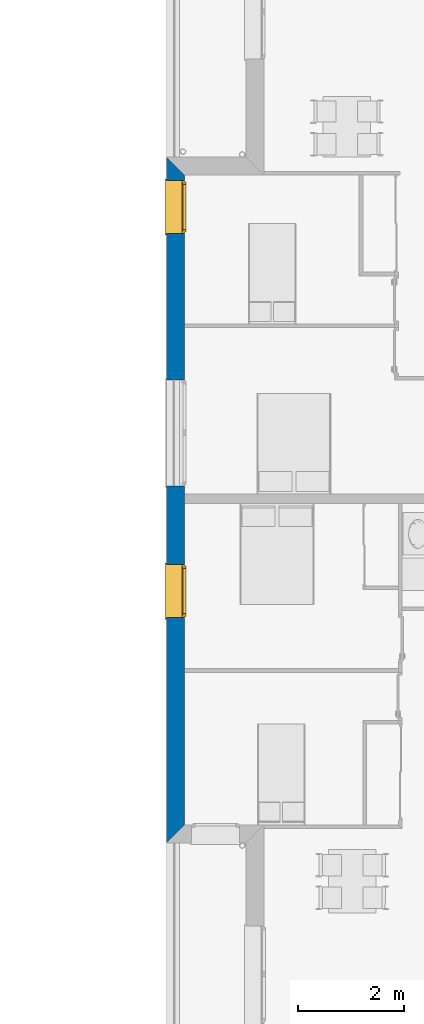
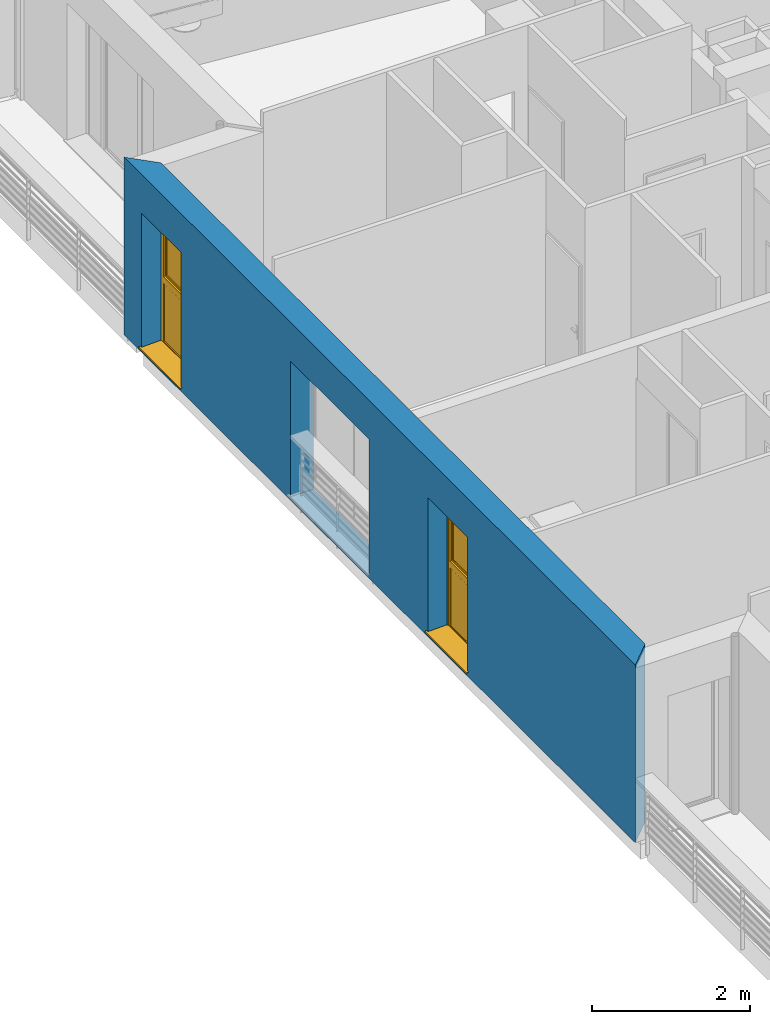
# One storey, part 47 of 171: 2 windows, 1 wall, 3 openings.
"""IFC2X3 building model written with IfcOpenShell, lengths in millimetres."""

from ifc_helpers import new_model, entity, si_unit, converted_unit, derived_unit, money_unit, direction, frame, origin_with_axes, place, context, subcontext, project, spatial, polyline, outline, extrude, open_shell, faceted_brep, surface_model, source, transform, mapped, material, layer, layer_set, layer_usage, type_object, element, fill, save


model = new_model("IFC2X3")

# Units and contexts
model_context = context("Model", 3, precision=0.01, world=origin_with_axes(), true_north=direction((0.0, 1.0)))
body_context = subcontext(model_context, "Body", "Model", "MODEL_VIEW")
ifc_project = project(units=[si_unit("LENGTHUNIT", "METRE", prefix="MILLI"), si_unit("AREAUNIT", "SQUARE_METRE"), si_unit("VOLUMEUNIT", "CUBIC_METRE"), converted_unit("PLANEANGLEUNIT", "DEGREE", entity("IfcPlaneAngleMeasure", 0.0174532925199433), si_unit("PLANEANGLEUNIT", "RADIAN"), dimensions=[0, 0, 0, 0, 0, 0, 0]), money_unit("USD"), converted_unit("TIMEUNIT", "Year", entity("IfcTimeMeasure", 31557600.0), si_unit("TIMEUNIT", "SECOND"), dimensions=[0, 0, 1, 0, 0, 0, 0]), si_unit("MASSUNIT", "GRAM", prefix="KILO"), si_unit("THERMODYNAMICTEMPERATUREUNIT", "DEGREE_CELSIUS"), si_unit("LUMINOUSINTENSITYUNIT", "LUMEN"), si_unit("ENERGYUNIT", "JOULE", prefix="MEGA"), derived_unit("THERMALCONDUCTANCEUNIT", [(si_unit("POWERUNIT", "WATT"), 1), (si_unit("LENGTHUNIT", "METRE"), -1), (si_unit("THERMODYNAMICTEMPERATUREUNIT", "KELVIN"), -1)]), derived_unit("SPECIFICHEATCAPACITYUNIT", [(si_unit("ENERGYUNIT", "JOULE"), 1), (si_unit("MASSUNIT", "GRAM", prefix="KILO"), -1), (si_unit("THERMODYNAMICTEMPERATUREUNIT", "KELVIN"), -1)]), derived_unit("MASSDENSITYUNIT", [(si_unit("MASSUNIT", "GRAM", prefix="KILO"), 1), (si_unit("VOLUMEUNIT", "CUBIC_METRE"), -1)])], contexts=[model_context])

# Site, building, storey
site_placement = place(None, origin_with_axes())
site = spatial("IfcSite", under=ifc_project, at=site_placement, Name="Site", CompositionType="ELEMENT")
building_placement = place(site_placement, origin_with_axes())
building = spatial("IfcBuilding", under=site, at=building_placement, Name="Bâtiment", CompositionType="ELEMENT")
storey_placement = place(building_placement, frame((0.0, 0.0, 3000.0), z_axis=(0.0, 0.0, 1.0), x_axis=(1.0, 0.0, 0.0)))
storey = spatial("IfcBuildingStorey", under=building, at=storey_placement, Name="rdc", CompositionType="ELEMENT", Elevation=3000.0)

# Wall, openings, windows
ifc_material_1 = material(Name="Parpaing 312445824")
ifc_layer_1 = layer(ifc_material_1, 180.0, ventilated="UNKNOWN")
ifc_material_2 = material(Name="Isolant styromousse 301821074")
ifc_layer_2 = layer(ifc_material_2, 160.0, ventilated="UNKNOWN")
ifc_layer_set = layer_set([ifc_layer_1, ifc_layer_2], Name="isol int 18+16 0018356637")
ifc_layer_usage = layer_usage(ifc_layer_set, "AXIS2", "POSITIVE", 0.0)
wall_type = type_object("IfcWallType", Name="isol int 18+16 0018356637 340", PredefinedType="NOTDEFINED")
wall_placement = place(storey_placement, frame((2216634.236006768, -626071.2141322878, 0.0), z_axis=(0.0, 0.0, 1.0), x_axis=(5.891582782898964e-06, -0.9999999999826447, 0.0)))
wall = element("IfcWallStandardCase", 1, at=wall_placement, inside=storey, type_object=wall_type, material=ifc_layer_usage, Name="Mur-143", context=body_context, shape_type="SweptSolid", body=[
    extrude(outline(polyline([(0.0, 0.0), (12945.5935671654, 0.0), (12605.59557029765, 339.9999999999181), (340.0020031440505, 339.9999999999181), (0.0, 0.0)])), origin_with_axes(), (0.0, 0.0, 1.0), 2750.0),
])
opening_1_placement = place(wall_placement, frame((942.2718853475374, 0.0, 49.99999999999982), z_axis=(0.0, 0.0, 1.0), x_axis=(1.0, 0.0, 0.0)))
opening_1 = element("IfcOpeningElement", 2, at=opening_1_placement, cuts=wall, Name="Fen-133", context=body_context, shape_type="Brep", body=[
    faceted_brep([(-500.0, 289.9999999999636, 2100.0), (-499.9999999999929, 341.0762700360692, 2100.0), (-500.0, 341.0762700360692, 0.0), (-500.0000000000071, 289.9999999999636, 0.0), (-499.9999999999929, 280.0000000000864, 2100.0), (-499.9999999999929, 280.0000000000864, 2350.0), (-499.9999999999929, 529.9999999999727, 2350.0), (-499.9999999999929, 529.9999999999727, 2100.0), (500.0, 341.0762700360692, 2100.0), (500.0, 341.0762700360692, 0.0), (500.0, 289.9999999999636, 0.0), (499.9999999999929, -1.076270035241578, 0.0), (-500.0, -1.076270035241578, 0.0), (-500.0, -1.076270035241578, 2100.0), (500.0, 280.0000000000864, 2100.0), (500.0, 280.0000000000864, 2350.0), (500.0, 529.9999999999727, 2350.0), (500.0, 529.9999999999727, 2100.0), (500.0, 289.9999999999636, 2100.0), (499.9999999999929, -1.076270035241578, 2100.0)], [[[0, 1, 2, 3]], [[1, 0, 4, 5, 6, 7]], [[1, 8, 9, 2]], [[10, 11, 12, 3, 2, 9]], [[4, 0, 3, 12, 13]], [[4, 14, 15, 5]], [[6, 5, 15, 16]], [[7, 6, 16, 17]], [[8, 1, 7, 17]], [[8, 18, 10, 9]], [[18, 14, 19, 11, 10]], [[13, 12, 11, 19]], [[14, 4, 13, 19]], [[18, 8, 17, 16, 15, 14]]]),
])
opening_2_placement = place(wall_placement, frame((8194.486959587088, 0.0, 49.99999999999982), z_axis=(0.0, 0.0, 1.0), x_axis=(1.0, 0.0, 0.0)))
opening_2 = element("IfcOpeningElement", 3, at=opening_2_placement, cuts=wall, Name="Fen-133", context=body_context, shape_type="Brep", body=[
    faceted_brep([(-500.0000000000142, 290.0000000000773, 2100.0), (-500.0, 341.0762700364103, 2100.0), (-500.0, 341.0762700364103, 0.0), (-500.0, 290.0000000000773, 0.0), (-500.0000000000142, 280.0000000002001, 2100.0), (-500.0000000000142, 280.0000000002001, 2350.0), (-500.0, 530.0000000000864, 2350.0), (-500.0, 530.0000000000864, 2100.0), (500.0, 341.0762700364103, 2100.0), (499.9999999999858, 341.0762700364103, 0.0), (500.0, 289.9999999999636, 0.0), (500.0, -1.076270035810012, 0.0), (-500.0, -1.076270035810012, 0.0), (-500.0, -1.076270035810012, 2100.0), (500.0, 280.0000000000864, 2100.0), (500.0, 280.0000000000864, 2350.0), (500.0, 530.0000000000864, 2350.0), (500.0, 530.0000000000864, 2100.0), (500.0, 289.9999999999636, 2100.0), (500.0, -1.076270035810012, 2100.0)], [[[0, 1, 2, 3]], [[1, 0, 4, 5, 6, 7]], [[1, 8, 9, 2]], [[10, 11, 12, 3, 2, 9]], [[4, 0, 3, 12, 13]], [[4, 14, 15, 5]], [[6, 5, 15, 16]], [[7, 6, 16, 17]], [[8, 1, 7, 17]], [[8, 18, 10, 9]], [[18, 14, 19, 11, 10]], [[13, 12, 11, 19]], [[14, 4, 13, 19]], [[18, 8, 17, 16, 15, 14]]]),
])
opening_3_placement = place(wall_placement, frame((5205.708992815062, 0.0, 49.99999999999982), z_axis=(0.0, 0.0, 1.0), x_axis=(1.0, 0.0, 0.0)))
element("IfcOpeningElement", 4, at=opening_3_placement, cuts=wall, Name="Fen-207", context=body_context, shape_type="Brep", body=[
    faceted_brep([(-999.999999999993, 341.0762700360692, 2100.0), (999.999999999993, 341.0762700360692, 2100.0), (999.999999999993, 341.0762700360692, 0.0), (-999.999999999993, 341.0762700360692, 0.0), (-1000.0, 530.0000000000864, 2100.0), (999.999999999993, 530.0000000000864, 2100.0), (1000.000000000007, 289.9999999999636, 2100.0), (1000.000000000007, 289.9999999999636, 0.0), (999.999999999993, -1.076270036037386, 0.0), (-999.999999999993, -1.076270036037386, 0.0), (-999.999999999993, 290.0000000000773, 0.0), (-999.999999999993, 290.0000000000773, 2100.0), (-999.9999999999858, 280.0000000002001, 2100.0), (-999.9999999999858, 280.0000000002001, 2350.0), (-1000.0, 530.0000000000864, 2350.0), (999.999999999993, 530.0000000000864, 2350.0), (1000.000000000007, 280.0000000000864, 2350.0), (1000.000000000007, 280.0000000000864, 2100.0), (999.999999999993, -1.076270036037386, 2100.0), (-999.999999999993, -1.076270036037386, 2100.0)], [[[0, 1, 2, 3]], [[1, 0, 4, 5]], [[1, 6, 7, 2]], [[7, 8, 9, 10, 3, 2]], [[11, 0, 3, 10]], [[0, 11, 12, 13, 14, 4]], [[4, 14, 15, 5]], [[6, 1, 5, 15, 16, 17]], [[6, 17, 18, 8, 7]], [[19, 9, 8, 18]], [[12, 11, 10, 9, 19]], [[12, 17, 16, 13]], [[14, 13, 16, 15]], [[17, 12, 19, 18]]]),
])
window_style = type_object("IfcWindowStyle", Name="Fenêtre 27", ConstructionType="NOTDEFINED", OperationType="DOUBLE_PANEL_HORIZONTAL", ParameterTakesPrecedence=False, Sizeable=False)
shared_shape = source(origin_with_axes(), body_context, "Body", "SurfaceModel", [
    surface_model("IfcShellBasedSurfaceModel", [(-500.0, -51.00000000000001, 40.00000000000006), (500.0, -51.00000000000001, 40.0), (500.0, -51.00000000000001, 50.0), (-500.0, -51.00000000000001, 50.00000000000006), (-530.0, -369.9999999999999, 28.96551724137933), (530.0, -369.9999999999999, 28.96551724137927), (530.0, -339.9999999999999, 30.00324289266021), (500.0, -339.9999999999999, 30.00324289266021), (-500.0, -339.9999999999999, 30.00324289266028), (-530.0, -339.9999999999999, 30.00324289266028), (-530.0, -369.9999999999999, 8.96551724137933), (530.0, -369.9999999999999, 8.965517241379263), (-530.0, -359.9999999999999, 18.96551724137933), (530.0, -359.9999999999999, 18.96551724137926)], [open_shell([[[0, 1, 2, 3]], [[4, 5, 6, 7, 1, 0, 8, 9]], [[10, 11, 5, 4]], [[12, 13, 11, 10]]])]),
    faceted_brep([(500.0, -59.99999999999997, 2350.0), (500.0, 190.0, 2350.0), (497.0, 190.0, 2350.0), (497.0, -59.99999999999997, 2350.0), (500.0, -59.99999999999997, 2100.0), (500.0, 190.0, 2100.0), (497.0, 190.0, 2100.0), (497.0, -59.99999999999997, 2100.0)], [[[0, 1, 2, 3]], [[0, 4, 5, 1]], [[1, 5, 6, 2]], [[3, 2, 6, 7]], [[4, 0, 3, 7]], [[5, 4, 7, 6]]]),
    faceted_brep([(-497.0, -59.99999999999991, 2350.0), (-497.0, 190.0000000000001, 2350.0), (-500.0, 190.0000000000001, 2350.0), (-500.0, -59.99999999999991, 2350.0), (-497.0, -59.99999999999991, 2100.0), (-497.0, 190.0000000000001, 2100.0), (-500.0, 190.0000000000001, 2100.0), (-500.0, -59.99999999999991, 2100.0)], [[[0, 1, 2, 3]], [[0, 4, 5, 1]], [[1, 5, 6, 2]], [[3, 2, 6, 7]], [[4, 0, 3, 7]], [[5, 4, 7, 6]]]),
    faceted_brep([(497.0, -60.0, 2100.0), (497.0, -60.0, 2350.0), (-497.0, -59.99999999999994, 2350.0), (-497.0, -59.99999999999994, 2100.0), (497.0, -56.99999999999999, 2100.0), (497.0, -56.99999999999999, 2347.0), (497.0, 187.0, 2347.0), (497.0, 187.0, 2103.0), (497.0, -37.99999999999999, 2103.0), (497.0, -37.99999999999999, 2100.0), (497.0, 190.0, 2100.0), (497.0, 190.0, 2350.0), (-497.0, 190.0000000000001, 2350.0), (-497.0, 190.0000000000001, 2100.0), (-497.0, -37.99999999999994, 2100.0), (-497.0, -37.99999999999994, 2103.0), (-497.0, 187.0000000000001, 2103.0), (-497.0, 187.0000000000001, 2347.0), (-497.0, -56.99999999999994, 2347.0), (-497.0, -56.99999999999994, 2100.0)], [[[0, 1, 2, 3]], [[0, 4, 5, 6, 7, 8, 9, 10, 11, 1]], [[1, 11, 12, 2]], [[3, 2, 12, 13, 14, 15, 16, 17, 18, 19]], [[4, 0, 3, 19]], [[5, 4, 19, 18]], [[6, 5, 18, 17]], [[7, 6, 17, 16]], [[8, 7, 16, 15]], [[9, 8, 15, 14]], [[10, 9, 14, 13]], [[11, 10, 13, 12]]]),
    faceted_brep([(494.0, -40.37442957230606, 2206.419644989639), (494.0, -35.54711042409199, 2188.403844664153), (494.0, -27.66471820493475, 2171.5), (494.0, -16.9667554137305, 2156.22172576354), (494.0, -3.778274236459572, 2143.03324458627), (494.0, 11.50000000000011, 2132.335281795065), (494.0, 28.40384466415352, 2124.452889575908), (494.0, 46.4196449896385, 2119.625570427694), (494.0, 65.00000000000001, 2118.0), (494.0, 83.58035501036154, 2119.625570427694), (494.0, 101.5961553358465, 2124.452889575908), (494.0, 118.4999999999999, 2132.335281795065), (494.0, 133.7782742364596, 2143.03324458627), (494.0, 146.9667554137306, 2156.22172576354), (494.0, 157.6647182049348, 2171.5), (494.0, 165.5471104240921, 2188.403844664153), (494.0, 170.3744295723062, 2206.419644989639), (494.0, 171.9999999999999, 2225.0), (494.0, 170.3744295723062, 2243.580355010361), (494.0, 165.5471104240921, 2261.596155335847), (494.0, 157.6647182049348, 2278.5), (494.0, 146.9667554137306, 2293.77827423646), (494.0, 133.7782742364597, 2306.966755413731), (494.0, 118.5, 2317.664718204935), (494.0, 101.5961553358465, 2325.547110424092), (494.0, 83.58035501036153, 2330.374429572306), (494.0, 64.99999999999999, 2332.0), (494.0, 46.41964498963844, 2330.374429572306), (494.0, 28.40384466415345, 2325.547110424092), (494.0, 11.5, 2317.664718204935), (494.0, -3.778274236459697, 2306.966755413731), (494.0, -16.96675541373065, 2293.77827423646), (494.0, -27.66471820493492, 2278.5), (494.0, -35.54711042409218, 2261.596155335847), (494.0, -40.37442957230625, 2243.580355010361), (494.0, -41.99999999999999, 2225.0), (-494.0, -40.374429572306, 2206.419644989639), (-494.0, -35.54711042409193, 2188.403844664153), (-494.0, -27.6647182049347, 2171.5), (-494.0, -16.96675541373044, 2156.22172576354), (-494.0, -3.778274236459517, 2143.03324458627), (-494.0, 11.50000000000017, 2132.335281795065), (-494.0, 28.40384466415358, 2124.452889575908), (-494.0, 46.41964498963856, 2119.625570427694), (-494.0, 65.00000000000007, 2118.0), (-494.0, 83.5803550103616, 2119.625570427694), (-494.0, 101.5961553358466, 2124.452889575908), (-494.0, 118.5, 2132.335281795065), (-494.0, 133.7782742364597, 2143.03324458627), (-494.0, 146.9667554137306, 2156.22172576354), (-494.0, 157.6647182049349, 2171.5), (-494.0, 165.5471104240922, 2188.403844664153), (-494.0, 170.3744295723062, 2206.419644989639), (-494.0, 172.0, 2225.0), (-494.0, 170.3744295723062, 2243.580355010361), (-494.0, 165.5471104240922, 2261.596155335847), (-494.0, 157.6647182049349, 2278.5), (-494.0, 146.9667554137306, 2293.77827423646), (-494.0, 133.7782742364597, 2306.966755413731), (-494.0, 118.5, 2317.664718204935), (-494.0, 101.5961553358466, 2325.547110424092), (-494.0, 83.58035501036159, 2330.374429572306), (-494.0, 65.00000000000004, 2332.0), (-494.0, 46.41964498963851, 2330.374429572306), (-494.0, 28.40384466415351, 2325.547110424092), (-494.0, 11.50000000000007, 2317.664718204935), (-494.0, -3.778274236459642, 2306.966755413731), (-494.0, -16.96675541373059, 2293.77827423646), (-494.0, -27.66471820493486, 2278.5), (-494.0, -35.54711042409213, 2261.596155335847), (-494.0, -40.37442957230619, 2243.580355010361), (-494.0, -41.99999999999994, 2225.0)], [[[0, 1, 2, 3, 4, 5, 6, 7, 8, 9, 10, 11, 12, 13, 14, 15, 16, 17, 18, 19, 20, 21, 22, 23, 24, 25, 26, 27, 28, 29, 30, 31, 32, 33, 34, 35]], [[1, 0, 36, 37]], [[2, 1, 37, 38]], [[3, 2, 38, 39]], [[4, 3, 39, 40]], [[5, 4, 40, 41]], [[6, 5, 41, 42]], [[7, 6, 42, 43]], [[8, 7, 43, 44]], [[9, 8, 44, 45]], [[10, 9, 45, 46]], [[11, 10, 46, 47]], [[12, 11, 47, 48]], [[13, 12, 48, 49]], [[14, 13, 49, 50]], [[15, 14, 50, 51]], [[16, 15, 51, 52]], [[17, 16, 52, 53]], [[18, 17, 53, 54]], [[19, 18, 54, 55]], [[20, 19, 55, 56]], [[21, 20, 56, 57]], [[22, 21, 57, 58]], [[23, 22, 58, 59]], [[24, 23, 59, 60]], [[25, 24, 60, 61]], [[26, 25, 61, 62]], [[27, 26, 62, 63]], [[28, 27, 63, 64]], [[29, 28, 64, 65]], [[30, 29, 65, 66]], [[31, 30, 66, 67]], [[32, 31, 67, 68]], [[33, 32, 68, 69]], [[34, 33, 69, 70]], [[35, 34, 70, 71]], [[0, 35, 71, 36]], [[36, 71, 70, 69, 68, 67, 66, 65, 64, 63, 62, 61, 60, 59, 58, 57, 56, 55, 54, 53, 52, 51, 50, 49, 48, 47, 46, 45, 44, 43, 42, 41, 40, 39, 38, 37]]]),
    faceted_brep([(-500.0, -34.99999999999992, 30.0), (-500.0, -59.99999999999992, 30.0), (-500.0, -59.99999999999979, 2100.0), (-500.0, -34.99999999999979, 2100.0), (-475.0, -34.99999999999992, 30.0), (-475.0, -37.99999999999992, 30.0), (-497.0, -37.99999999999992, 30.0), (-497.0, -56.99999999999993, 30.0), (-475.0, -56.99999999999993, 30.0), (-475.0, -59.99999999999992, 30.0), (-475.0, -59.99999999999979, 2100.0), (-475.0, -56.99999999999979, 2100.0), (-497.0, -56.99999999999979, 2100.0), (-497.0, -37.99999999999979, 2100.0), (-475.0, -37.99999999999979, 2100.0), (-475.0, -34.99999999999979, 2100.0)], [[[0, 1, 2, 3]], [[0, 4, 5, 6, 7, 8, 9, 1]], [[1, 9, 10, 2]], [[3, 2, 10, 11, 12, 13, 14, 15]], [[4, 0, 3, 15]], [[5, 4, 15, 14]], [[6, 5, 14, 13]], [[7, 6, 13, 12]], [[8, 7, 12, 11]], [[9, 8, 11, 10]]]),
    faceted_brep([(500.0, -34.99999999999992, 30.0), (500.0, -34.99999999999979, 2100.0), (500.0, -59.99999999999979, 2100.0), (500.0, -59.99999999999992, 30.0), (475.0, -34.99999999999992, 30.0), (475.0, -34.99999999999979, 2100.0), (475.0, -37.99999999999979, 2100.0), (497.0, -37.99999999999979, 2100.0), (497.0, -56.99999999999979, 2100.0), (475.0, -56.99999999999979, 2100.0), (475.0, -59.99999999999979, 2100.0), (475.0, -59.99999999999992, 30.0), (475.0, -56.99999999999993, 30.0), (497.0, -56.99999999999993, 30.0), (497.0, -37.99999999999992, 30.0), (475.0, -37.99999999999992, 30.0)], [[[0, 1, 2, 3]], [[4, 5, 1, 0]], [[1, 5, 6, 7, 8, 9, 10, 2]], [[3, 2, 10, 11]], [[0, 3, 11, 12, 13, 14, 15, 4]], [[15, 6, 5, 4]], [[14, 7, 6, 15]], [[13, 8, 7, 14]], [[12, 9, 8, 13]], [[11, 10, 9, 12]]]),
    faceted_brep([(-497.0, -46.66666666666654, 2225.0), (497.0, -46.6666666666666, 2225.0), (497.0, -46.6666666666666, 2216.666666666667), (-497.0, -46.66666666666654, 2216.666666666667), (-497.0, -51.66666666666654, 2225.0), (497.0, -51.6666666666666, 2225.0), (497.0, -51.6666666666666, 2216.666666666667), (497.0, -49.99999999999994, 2200.0), (497.0, -44.99999999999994, 2200.0), (-497.0, -44.99999999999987, 2200.0), (-497.0, -49.99999999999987, 2200.0), (-497.0, -51.66666666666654, 2216.666666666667)], [[[0, 1, 2, 3]], [[1, 0, 4, 5]], [[1, 5, 6, 7, 8, 2]], [[2, 8, 9, 3]], [[4, 0, 3, 9, 10, 11]], [[6, 5, 4, 11]], [[7, 6, 11, 10]], [[8, 7, 10, 9]]]),
    faceted_brep([(497.0, -44.99999999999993, 2200.0), (497.0, -46.6666666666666, 2183.333333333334), (-497.0, -46.66666666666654, 2183.333333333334), (-497.0, -44.99999999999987, 2200.0), (497.0, -49.99999999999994, 2200.0), (497.0, -51.6666666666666, 2183.333333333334), (497.0, -51.6666666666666, 2166.666666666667), (497.0, -49.99999999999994, 2150.000000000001), (497.0, -44.99999999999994, 2150.000000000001), (497.0, -46.6666666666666, 2166.666666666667), (-497.0, -46.66666666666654, 2166.666666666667), (-497.0, -44.99999999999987, 2150.000000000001), (-497.0, -49.99999999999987, 2150.000000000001), (-497.0, -51.66666666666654, 2166.666666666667), (-497.0, -51.66666666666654, 2183.333333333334), (-497.0, -49.99999999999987, 2200.0)], [[[0, 1, 2, 3]], [[0, 4, 5, 6, 7, 8, 9, 1]], [[1, 9, 10, 2]], [[3, 2, 10, 11, 12, 13, 14, 15]], [[4, 0, 3, 15]], [[5, 4, 15, 14]], [[6, 5, 14, 13]], [[7, 6, 13, 12]], [[8, 7, 12, 11]], [[9, 8, 11, 10]]]),
    faceted_brep([(497.0, -44.99999999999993, 2150.000000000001), (497.0, -46.6666666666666, 2133.333333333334), (-497.0, -46.66666666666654, 2133.333333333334), (-497.0, -44.99999999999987, 2150.000000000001), (497.0, -49.99999999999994, 2150.000000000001), (497.0, -51.6666666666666, 2133.333333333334), (497.0, -51.6666666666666, 2116.666666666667), (497.0, -49.99999999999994, 2100.000000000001), (497.0, -44.99999999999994, 2100.000000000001), (497.0, -46.6666666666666, 2116.666666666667), (-497.0, -46.66666666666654, 2116.666666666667), (-497.0, -44.99999999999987, 2100.000000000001), (-497.0, -49.99999999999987, 2100.000000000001), (-497.0, -51.66666666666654, 2116.666666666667), (-497.0, -51.66666666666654, 2133.333333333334), (-497.0, -49.99999999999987, 2150.000000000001)], [[[0, 1, 2, 3]], [[0, 4, 5, 6, 7, 8, 9, 1]], [[1, 9, 10, 2]], [[3, 2, 10, 11, 12, 13, 14, 15]], [[4, 0, 3, 15]], [[5, 4, 15, 14]], [[6, 5, 14, 13]], [[7, 6, 13, 12]], [[8, 7, 12, 11]], [[9, 8, 11, 10]]]),
    faceted_brep([(475.0000000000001, 0.0, 2050.0), (475.0000000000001, -25.00000000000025, 2050.0), (450.0, -25.00000000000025, 2050.0), (450.0, -50.00000000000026, 2050.0), (500.0, -50.00000000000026, 2050.0), (500.0, 0.0, 2050.0), (475.0000000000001, 0.0, 1025.0), (475.0000000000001, -25.00000000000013, 1025.0), (450.0, -25.00000000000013, 1050.0), (450.0, -25.00000000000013, 1025.0), (450.0, -50.00000000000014, 1050.0), (450.0, -50.00000000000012, 950.0), (450.0, -50.00000000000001, 50.00000000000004), (500.0, -50.00000000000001, 50.00000000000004), (500.0, 0.0, 50.00000000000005), (450.0, 0.0, 50.00000000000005), (450.0, 0.0, 950.0), (450.0, 0.0, 1025.0)], [[[0, 1, 2, 3, 4, 5]], [[1, 0, 6, 7]], [[8, 2, 1, 7, 9]], [[2, 8, 10, 3]], [[10, 11, 12, 13, 4, 3]], [[5, 4, 13, 14]], [[6, 0, 5, 14, 15, 16, 17]], [[6, 17, 9, 7]], [[9, 17, 16, 11, 10, 8]], [[15, 12, 11, 16]], [[14, 13, 12, 15]]]),
    faceted_brep([(-450.0, -25.00000000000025, 2050.0), (-475.0000000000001, -25.00000000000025, 2050.0), (-475.0000000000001, 0.0, 2050.0), (-500.0, 0.0, 2050.0), (-500.0, -50.00000000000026, 2050.0), (-450.0, -50.00000000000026, 2050.0), (-450.0, -25.00000000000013, 1050.0), (-450.0, -25.00000000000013, 1025.0), (-475.0000000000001, -25.00000000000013, 1025.0), (-475.0000000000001, 0.0, 1025.0), (-450.0, 0.0, 1025.0), (-450.0, 0.0, 950.0), (-450.0, 0.0, 50.00000000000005), (-500.0, 0.0, 50.00000000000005), (-500.0, -50.00000000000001, 50.00000000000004), (-450.0, -50.00000000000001, 50.00000000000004), (-450.0, -50.00000000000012, 950.0), (-450.0, -50.00000000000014, 1050.0)], [[[0, 1, 2, 3, 4, 5]], [[1, 0, 6, 7, 8]], [[9, 2, 1, 8]], [[9, 10, 11, 12, 13, 3, 2]], [[13, 14, 4, 3]], [[14, 15, 16, 17, 5, 4]], [[6, 0, 5, 17]], [[7, 6, 17, 16, 11, 10]], [[10, 9, 8, 7]], [[11, 16, 15, 12]], [[12, 15, 14, 13]]]),
    faceted_brep([(450.0, -25.00000000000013, 1050.0), (-450.0, -25.00000000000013, 1050.0), (-450.0, -50.00000000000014, 1050.0), (450.0, -50.00000000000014, 1050.0), (-450.0, -25.00000000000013, 1025.0), (450.0, -25.00000000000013, 1025.0), (-450.0, 0.0, 1025.0), (-450.0, 0.0, 950.0), (-450.0, -50.00000000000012, 950.0), (450.0, -50.00000000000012, 950.0), (450.0, 0.0, 950.0), (450.0, 0.0, 1025.0)], [[[0, 1, 2, 3]], [[4, 1, 0, 5]], [[4, 6, 7, 8, 2, 1]], [[8, 9, 3, 2]], [[5, 0, 3, 9, 10, 11]], [[11, 6, 4, 5]], [[6, 11, 10, 7]], [[10, 9, 8, 7]]]),
    faceted_brep([(475.0000000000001, 0.0, 2050.0), (475.0000000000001, 0.0, 2075.0), (-475.0000000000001, 0.0, 2075.0), (-475.0000000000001, 0.0, 2050.0), (-500.0, 0.0, 2050.0), (-500.0, 0.0, 2100.0), (500.0, 0.0, 2100.0), (500.0, 0.0, 2050.0), (475.0000000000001, -25.00000000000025, 2050.0), (475.0000000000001, -25.00000000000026, 2075.0), (-475.0000000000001, -25.00000000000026, 2075.0), (-475.0000000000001, -25.00000000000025, 2050.0), (-450.0, -25.00000000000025, 2050.0), (-450.0, -50.00000000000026, 2050.0), (-500.0, -50.00000000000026, 2050.0), (-500.0, -50.00000000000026, 2100.0), (500.0, -50.00000000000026, 2100.0), (500.0, -50.00000000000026, 2050.0), (450.0, -50.00000000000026, 2050.0), (450.0, -25.00000000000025, 2050.0)], [[[0, 1, 2, 3, 4, 5, 6, 7]], [[1, 0, 8, 9]], [[2, 1, 9, 10]], [[3, 2, 10, 11]], [[11, 12, 13, 14, 4, 3]], [[4, 14, 15, 5]], [[5, 15, 16, 6]], [[6, 16, 17, 7]], [[8, 0, 7, 17, 18, 19]], [[12, 11, 10, 9, 8, 19]], [[12, 19, 18, 13]], [[14, 13, 18, 17, 16, 15]]]),
    faceted_brep([(450.0, -50.00000000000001, 50.0), (500.0, -50.00000000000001, 50.0), (500.0, 0.0, 50.00000000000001), (450.0, 0.0, 50.00000000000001), (-450.0, -50.00000000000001, 50.0), (-500.0, -50.00000000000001, 50.0), (-500.0, -50.0, 0.0), (500.0, -50.0, 0.0), (500.0, 0.0, 0.0), (-500.0, 0.0, 0.0), (-500.0, 0.0, 50.00000000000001), (-450.0, 0.0, 50.00000000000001)], [[[0, 1, 2, 3]], [[0, 4, 5, 6, 7, 1]], [[1, 7, 8, 2]], [[3, 2, 8, 9, 10, 11]], [[4, 0, 3, 11]], [[5, 4, 11, 10]], [[6, 5, 10, 9]], [[7, 6, 9, 8]]]),
    faceted_brep([(425.0000000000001, -25.00000000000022, 2025.0), (475.0000000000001, -25.00000000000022, 2025.0), (475.0000000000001, 24.99999999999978, 2025.0), (425.0000000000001, 24.99999999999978, 2025.0), (425.0000000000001, -25.00000000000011, 1075.0), (475.0000000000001, -25.0000000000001, 1075.0), (475.0000000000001, 24.9999999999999, 1075.0), (425.0000000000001, 24.9999999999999, 1075.0)], [[[0, 1, 2, 3]], [[0, 4, 5, 1]], [[1, 5, 6, 2]], [[3, 2, 6, 7]], [[4, 0, 3, 7]], [[5, 4, 7, 6]]]),
    faceted_brep([(-425.0000000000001, -25.00000000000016, 1075.0), (-475.0000000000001, -25.00000000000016, 1075.0), (-475.0000000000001, 24.99999999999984, 1075.0), (-425.0000000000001, 24.99999999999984, 1075.0), (-425.0000000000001, -25.00000000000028, 2025.0), (-475.0000000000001, -25.00000000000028, 2025.0), (-475.0000000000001, 24.99999999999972, 2025.0), (-425.0000000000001, 24.99999999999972, 2025.0)], [[[0, 1, 2, 3]], [[0, 4, 5, 1]], [[1, 5, 6, 2]], [[3, 2, 6, 7]], [[4, 0, 3, 7]], [[5, 4, 7, 6]]]),
    faceted_brep([(-475.0000000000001, -25.00000000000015, 1025.0), (-475.0000000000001, -25.00000000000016, 1075.0), (-475.0000000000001, 24.99999999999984, 1075.0), (-475.0000000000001, 24.99999999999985, 1025.0), (475.0000000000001, -25.0000000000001, 1025.0), (475.0000000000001, -25.0000000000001, 1075.0), (425.0000000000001, -25.00000000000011, 1075.0), (-425.0000000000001, -25.00000000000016, 1075.0), (-425.0000000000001, 24.99999999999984, 1075.0), (425.0000000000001, 24.9999999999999, 1075.0), (475.0000000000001, 24.9999999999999, 1075.0), (475.0000000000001, 24.9999999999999, 1025.0)], [[[0, 1, 2, 3]], [[0, 4, 5, 6, 7, 1]], [[1, 7, 8, 2]], [[3, 2, 8, 9, 10, 11]], [[4, 0, 3, 11]], [[5, 4, 11, 10]], [[6, 5, 10, 9]], [[7, 6, 9, 8]]]),
    faceted_brep([(475.0000000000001, -25.00000000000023, 2075.0), (475.0000000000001, -25.00000000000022, 2025.0), (475.0000000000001, 24.99999999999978, 2025.0), (475.0000000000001, 24.99999999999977, 2075.0), (-475.0000000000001, -25.00000000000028, 2075.0), (-475.0000000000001, -25.00000000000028, 2025.0), (-425.0000000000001, -25.00000000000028, 2025.0), (425.0000000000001, -25.00000000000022, 2025.0), (425.0000000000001, 24.99999999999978, 2025.0), (-425.0000000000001, 24.99999999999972, 2025.0), (-475.0000000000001, 24.99999999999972, 2025.0), (-475.0000000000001, 24.99999999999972, 2075.0)], [[[0, 1, 2, 3]], [[0, 4, 5, 6, 7, 1]], [[1, 7, 8, 2]], [[3, 2, 8, 9, 10, 11]], [[4, 0, 3, 11]], [[5, 4, 11, 10]], [[6, 5, 10, 9]], [[7, 6, 9, 8]]]),
    surface_model("IfcShellBasedSurfaceModel", [(425.0000000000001, -10.00000000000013, 1075.0), (425.0000000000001, -10.00000000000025, 2025.0), (-425.0000000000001, -10.00000000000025, 2025.0), (-425.0000000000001, -10.00000000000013, 1075.0)], [open_shell([[[0, 1, 2, 3]]])]),
    surface_model("IfcShellBasedSurfaceModel", [(425.0000000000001, 9.999999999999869, 1075.0), (-425.0000000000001, 9.999999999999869, 1075.0), (-425.0000000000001, 9.999999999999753, 2025.0), (425.0000000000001, 9.999999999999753, 2025.0)], [open_shell([[[0, 1, 2, 3]]])]),
    surface_model("IfcShellBasedSurfaceModel", [(450.0, -35.0, 49.99999999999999), (450.0, -35.00000000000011, 950.0), (-450.0, -35.00000000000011, 950.0), (-450.0, -35.0, 49.99999999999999)], [open_shell([[[0, 1, 2, 3]]])]),
    surface_model("IfcShellBasedSurfaceModel", [(450.0, -15.0, 49.99999999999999), (-450.0, -15.0, 49.99999999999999), (-450.0, -15.00000000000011, 950.0), (450.0, -15.00000000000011, 950.0)], [open_shell([[[0, 1, 2, 3]]])]),
])
window_1_placement = place(opening_1_placement, frame((-499.9999999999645, -1.13686837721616e-10, 0.0), z_axis=(0.0, 0.0, 1.0), x_axis=(1.0, 0.0, 0.0)))
window_1 = element("IfcWindow", 5, at=window_1_placement, inside=storey, type_object=window_style, Name="Fen-133", OverallHeight=2100.0, OverallWidth=1000.0, context=body_context, shape_type="MappedRepresentation", body=[
    mapped(shared_shape, transform((500.0000000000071, 339.9999999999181, 0.0))),
])
fill(opening_1, window_1)
window_2_placement = place(opening_2_placement, frame((-499.9999999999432, 2.273736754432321e-10, 0.0), z_axis=(0.0, 0.0, 1.0), x_axis=(1.0, 0.0, 0.0)))
window_2 = element("IfcWindow", 6, at=window_2_placement, inside=storey, type_object=window_style, Name="Fen-133", OverallHeight=2100.0, OverallWidth=1000.0, context=body_context, shape_type="MappedRepresentation", body=[
    mapped(shared_shape, transform((499.9999999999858, 340.0000000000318, 0.0))),
])
fill(opening_2, window_2)

save(model, "model.ifc")
